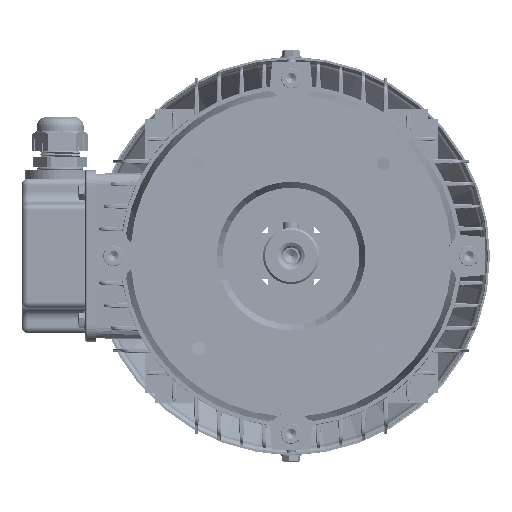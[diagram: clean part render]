
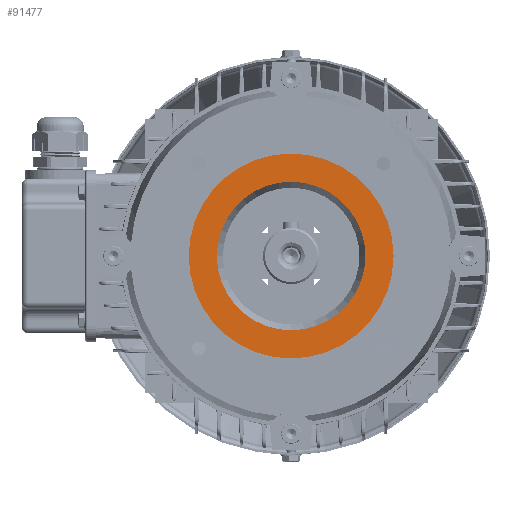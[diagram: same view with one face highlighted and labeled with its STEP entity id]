
A CAD part, left-side view. The second image highlights one B-rep face of the part: STEP entity #91477.
In plain terms, the highlighted planar face has unit normal (-1, 0, 0).
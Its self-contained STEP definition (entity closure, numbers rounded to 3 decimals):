
#2217 = CIRCLE ( 'NONE', #85558, 51. ) ;
#7730 = EDGE_CURVE ( 'NONE', #65296, #15512, #15654, .T. ) ;
#10642 = AXIS2_PLACEMENT_3D ( 'NONE', #138922, #137397, #32117 ) ;
#12643 = DIRECTION ( 'NONE',  ( 0., 0., 1. ) ) ;
#13137 = CARTESIAN_POINT ( 'NONE',  ( -10.5, 0., 0. ) ) ;
#14671 = VERTEX_POINT ( 'NONE', #27351 ) ;
#15512 = VERTEX_POINT ( 'NONE', #142985 ) ;
#15654 = CIRCLE ( 'NONE', #78127, 37. ) ;
#20376 = EDGE_CURVE ( 'NONE', #30346, #14671, #103009, .T. ) ;
#27351 = CARTESIAN_POINT ( 'NONE',  ( -10.5, 0., -51. ) ) ;
#27837 = ORIENTED_EDGE ( 'NONE', *, *, #122303, .T. ) ;
#28045 = FACE_OUTER_BOUND ( 'NONE', #145603, .T. ) ;
#30346 = VERTEX_POINT ( 'NONE', #101215 ) ;
#32117 = DIRECTION ( 'NONE',  ( 0., 0., 1. ) ) ;
#38261 = CARTESIAN_POINT ( 'NONE',  ( -10.5, 0., 0. ) ) ;
#38768 = DIRECTION ( 'NONE',  ( -1., 0., 0. ) ) ;
#53658 = DIRECTION ( 'NONE',  ( 0., 0., 1. ) ) ;
#53730 = DIRECTION ( 'NONE',  ( 0., 0., -1. ) ) ;
#55154 = CARTESIAN_POINT ( 'NONE',  ( -10.5, 0., 0. ) ) ;
#60404 = CIRCLE ( 'NONE', #10642, 37. ) ;
#61963 = ORIENTED_EDGE ( 'NONE', *, *, #20376, .T. ) ;
#62740 = EDGE_CURVE ( 'NONE', #15512, #65296, #60404, .T. ) ;
#63472 = EDGE_LOOP ( 'NONE', ( #96063, #145965 ) ) ;
#65296 = VERTEX_POINT ( 'NONE', #66599 ) ;
#66599 = CARTESIAN_POINT ( 'NONE',  ( -10.5, 0., 37. ) ) ;
#76384 = DIRECTION ( 'NONE',  ( -1., 0., 0. ) ) ;
#76972 = PLANE ( 'NONE',  #119044 ) ;
#78127 = AXIS2_PLACEMENT_3D ( 'NONE', #38261, #38768, #143516 ) ;
#85558 = AXIS2_PLACEMENT_3D ( 'NONE', #55154, #76384, #53658 ) ;
#86218 = FACE_BOUND ( 'NONE', #63472, .T. ) ;
#91477 = ADVANCED_FACE ( 'NONE', ( #86218, #28045 ), #76972, .F. ) ;
#96063 = ORIENTED_EDGE ( 'NONE', *, *, #7730, .F. ) ;
#100419 = DIRECTION ( 'NONE',  ( 1., 0., 0. ) ) ;
#101215 = CARTESIAN_POINT ( 'NONE',  ( -10.5, 0., 51. ) ) ;
#103009 = CIRCLE ( 'NONE', #116545, 51. ) ;
#108526 = CARTESIAN_POINT ( 'NONE',  ( -10.5, 37., 0. ) ) ;
#116545 = AXIS2_PLACEMENT_3D ( 'NONE', #13137, #139254, #12643 ) ;
#119044 = AXIS2_PLACEMENT_3D ( 'NONE', #108526, #100419, #53730 ) ;
#122303 = EDGE_CURVE ( 'NONE', #14671, #30346, #2217, .T. ) ;
#137397 = DIRECTION ( 'NONE',  ( -1., 0., 0. ) ) ;
#138922 = CARTESIAN_POINT ( 'NONE',  ( -10.5, 0., 0. ) ) ;
#139254 = DIRECTION ( 'NONE',  ( -1., 0., 0. ) ) ;
#142985 = CARTESIAN_POINT ( 'NONE',  ( -10.5, 0., -37. ) ) ;
#143516 = DIRECTION ( 'NONE',  ( 0., 0., 1. ) ) ;
#145603 = EDGE_LOOP ( 'NONE', ( #61963, #27837 ) ) ;
#145965 = ORIENTED_EDGE ( 'NONE', *, *, #62740, .F. ) ;
